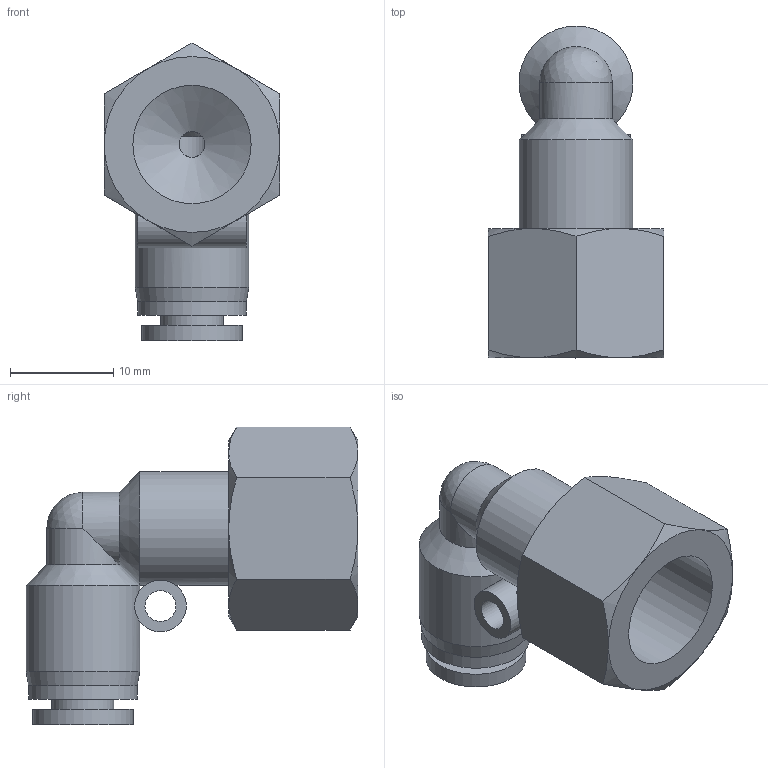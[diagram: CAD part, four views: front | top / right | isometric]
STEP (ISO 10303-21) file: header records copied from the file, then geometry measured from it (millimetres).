
FILE_DESCRIPTION((''),'2;1');
FILE_NAME('S:\UTecnico\ArchivioUT\Speciali Clienti\Speciali KONFIT\DISEGNI 3D\RP\RP72F\RP72F1404.stp','2013-03-22T09:02:58',('UT5'),(''),'Autodesk Inventor 2013','Autodesk Inventor 2013','');
FILE_SCHEMA(('AUTOMOTIVE_DESIGN { 1 0 10303 214 1 1 1 1 }'));
Length unit declared in the file: millimetre
Products named in the file (1): RP72F1404
Bounding box: 17 x 32.1 x 28.82 mm (x, y, z)
Volume: 4188.9 mm3; surface area: 3322.2 mm2
Topology: 1 solids, 1 shells, 43 faces, 99 edges, 59 vertices
Faces by surface type: cone 17, plane 13, cylinder 12, sphere 1
Full cylindrical faces by diameter (mm): 2.5 x1, 3 x1, 4 x1, 5 x1, 6 x1, 7 x2, 9.7 x1, 10.5 x1, 11 x2, 11.445 x1
Entity records: 1189 total; most frequent: CARTESIAN_POINT 343, DIRECTION 170, ORIENTED_EDGE 146, AXIS2_PLACEMENT_3D 81, EDGE_CURVE 73, EDGE_LOOP 66, VERTEX_POINT 48, FACE_OUTER_BOUND 43
